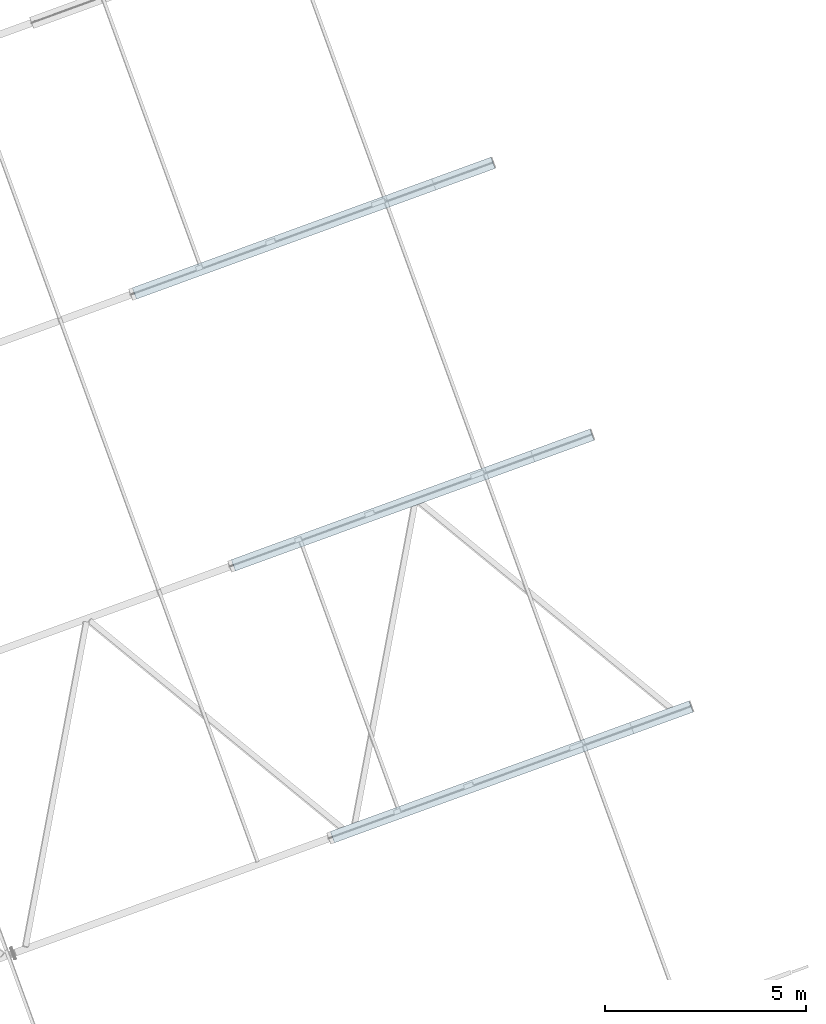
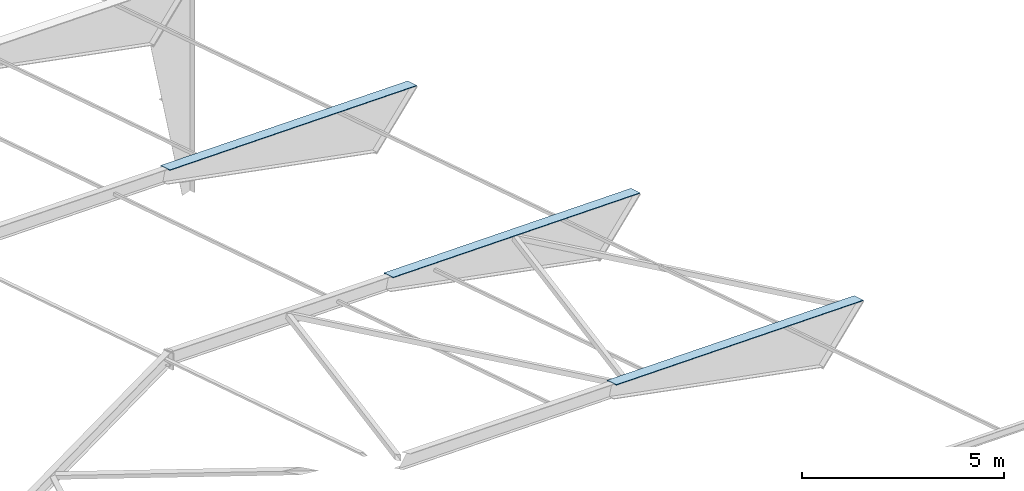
# One storey, part 11 of 17: 3 plates, 3 elements without a shape of their own.
"""IFC4 building model written with IfcOpenShell, lengths in millimetres."""

from ifc_helpers import new_model, si_unit, direction, frame, origin_with_axes, place, context, subcontext, project, spatial, polygons, material, element, aggregate, save


model = new_model("IFC4")

# Units and contexts
model_context = context("Model", 3, precision=0.2, world=frame((203566.813, 116264.779, 0.0), z_axis=(0.0, 0.0, 1.0), x_axis=(1.0, 0.0, 0.0)), true_north=direction((-0.9396138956, -0.3422363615)))
body_context = subcontext(model_context, "Body", "Model", "MODEL_VIEW")
ifc_project = project(units=[si_unit("LENGTHUNIT", "METRE", prefix="MILLI"), si_unit("AREAUNIT", "SQUARE_METRE"), si_unit("VOLUMEUNIT", "CUBIC_METRE"), si_unit("MASSUNIT", "GRAM", prefix="KILO"), si_unit("TIMEUNIT", "SECOND"), si_unit("PLANEANGLEUNIT", "RADIAN"), si_unit("SOLIDANGLEUNIT", "STERADIAN"), si_unit("THERMODYNAMICTEMPERATUREUNIT", "DEGREE_CELSIUS"), si_unit("LUMINOUSINTENSITYUNIT", "LUMEN")], contexts=[model_context])

# Site, building, storey
site_placement = place(None, origin_with_axes())
site = spatial("IfcSite", under=ifc_project, at=site_placement, Name="Nobelprojektet", CompositionType="ELEMENT")
building_placement = place(site_placement, origin_with_axes())
building = spatial("IfcBuilding", under=site, at=building_placement, Name="Hall B", CompositionType="ELEMENT")
storey_placement = place(building_placement, frame((0.0, 0.0, 136000.0), z_axis=(0.0, 0.0, 1.0), x_axis=(1.0, 0.0, 0.0)))
storey = spatial("IfcBuildingStorey", under=building, at=storey_placement, Name="Plan_2", CompositionType="ELEMENT", Elevation=136000.0)

# Assembly, plate
assembly_1_placement = place(storey_placement, frame((181785.98021, 131974.40439, 3682.47528), z_axis=(0.2431885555, 0.0885769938, 0.9659262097), x_axis=(-0.9075966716, -0.3305755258, 0.2588206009)))
assembly_1 = element("IfcElementAssembly", 1, at=assembly_1_placement, inside=storey, Name="BEF. STOMME", PredefinedType="NOTDEFINED")
ifc_material = material(Name="S355J2", Category="STEEL")
plate_1_placement = place(assembly_1_placement, frame((9833.15093, 0.0, 0.0), z_axis=(-1.0, 0.0, 0.0), x_axis=(0.0, 0.0, 1.0)))
plate_1 = element("IfcPlate", 2, at=plate_1_placement, material=ifc_material, Name="BEF. STOMME", PredefinedType="NOTDEFINED", context=body_context, shape_type="Tessellation", body=[
    polygons([(-10.0, -150.00001, 9833.15093), (-10.0, 149.99999, 9833.15093), (-10.0, 150.0, 0.0), (-10.0, -150.0, 0.0), (10.0, 149.99999, 9833.15093), (10.0, 150.0, 0.0), (10.0, -150.00001, 9833.15093), (10.0, -150.0, 0.0)], [[[1, 2, 3, 4]], [[2, 5, 6, 3]], [[5, 7, 8, 6]], [[7, 1, 4, 8]], [[6, 8, 4, 3]], [[7, 5, 2, 1]]], closed=True),
])
aggregate(assembly_1, [plate_1])

assembly_2_placement = place(storey_placement, frame((179321.87293, 138739.62271, 3682.47528), z_axis=(0.2431885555, 0.0885769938, 0.9659262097), x_axis=(-0.9075966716, -0.3305755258, 0.2588206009)))
assembly_2 = element("IfcElementAssembly", 3, at=assembly_2_placement, inside=storey, Name="BEF. STOMME", PredefinedType="NOTDEFINED")
plate_2_placement = place(assembly_2_placement, frame((9833.15093, 0.0, 0.0), z_axis=(-1.0, 0.0, 0.0), x_axis=(0.0, 0.0, 1.0)))
plate_2 = element("IfcPlate", 4, at=plate_2_placement, material=ifc_material, Name="BEF. STOMME", PredefinedType="NOTDEFINED", context=body_context, shape_type="Tessellation", body=[
    polygons([(-10.0, -150.00001, 9833.15093), (-10.0, 149.99999, 9833.15093), (-10.0, 150.0, 0.0), (-10.0, -150.0, 0.0), (10.0, 149.99999, 9833.15093), (10.0, 150.0, 0.0), (10.0, -150.00001, 9833.15093), (10.0, -150.0, 0.0)], [[[1, 2, 3, 4]], [[2, 5, 6, 3]], [[5, 7, 8, 6]], [[7, 1, 4, 8]], [[6, 8, 4, 3]], [[7, 5, 2, 1]]], closed=True),
])
aggregate(assembly_2, [plate_2])

assembly_3_placement = place(storey_placement, frame((176857.76564, 145504.84104, 3682.47528), z_axis=(0.2431885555, 0.0885769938, 0.9659262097), x_axis=(-0.9075966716, -0.3305755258, 0.2588206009)))
assembly_3 = element("IfcElementAssembly", 5, at=assembly_3_placement, inside=storey, Name="BEF. STOMME", PredefinedType="NOTDEFINED")
plate_3_placement = place(assembly_3_placement, frame((9833.15093, 0.0, 0.0), z_axis=(-1.0, 0.0, 0.0), x_axis=(0.0, 0.0, 1.0)))
plate_3 = element("IfcPlate", 6, at=plate_3_placement, material=ifc_material, Name="BEF. STOMME", PredefinedType="NOTDEFINED", context=body_context, shape_type="Tessellation", body=[
    polygons([(-10.0, -150.00001, 9833.15093), (-10.0, 149.99999, 9833.15093), (-10.0, 150.0, 0.0), (-10.0, -150.0, 0.0), (10.0, 149.99999, 9833.15093), (10.0, 150.0, 0.0), (10.0, -150.00001, 9833.15093), (10.0, -150.0, 0.0)], [[[1, 2, 3, 4]], [[2, 5, 6, 3]], [[5, 7, 8, 6]], [[7, 1, 4, 8]], [[6, 8, 4, 3]], [[7, 5, 2, 1]]], closed=True),
])
aggregate(assembly_3, [plate_3])

save(model, "model.ifc")
